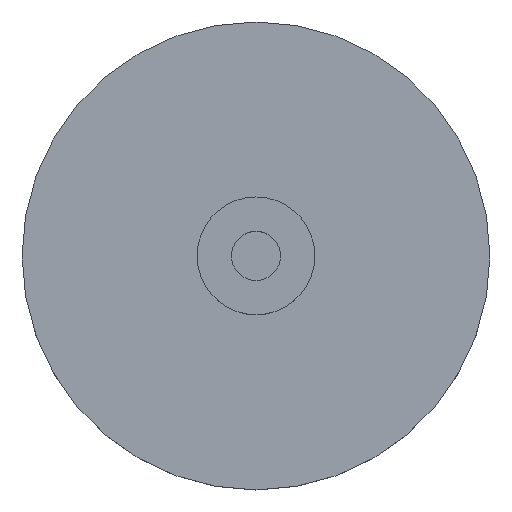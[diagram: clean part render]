
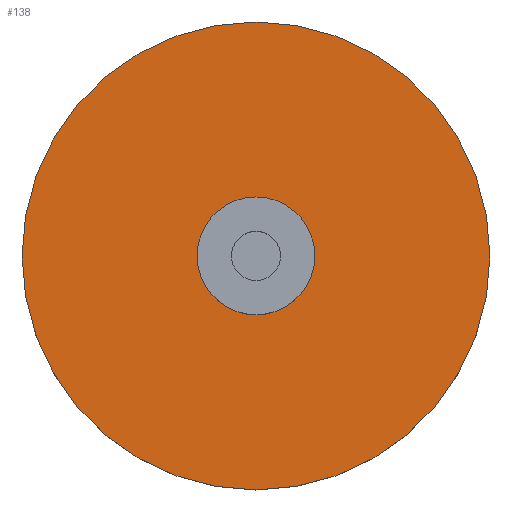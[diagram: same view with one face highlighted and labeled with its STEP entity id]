
A CAD part, top view. The second image highlights one B-rep face of the part: STEP entity #138.
In plain terms, the highlighted planar face has unit normal (0, 0, 1).
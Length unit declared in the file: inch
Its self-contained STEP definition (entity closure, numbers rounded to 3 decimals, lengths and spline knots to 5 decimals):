
#111=CARTESIAN_POINT('',(67.89299,41.42512,3.48075));
#112=DIRECTION('',(0.0,0.0,1.0));
#113=DIRECTION('',(1.0,0.0,0.0));
#114=AXIS2_PLACEMENT_3D('',#111,#112,#113);
#115=PLANE('',#114);
#116=CARTESIAN_POINT('',(69.38299,41.42512,3.48075));
#117=VERTEX_POINT('',#116);
#118=CARTESIAN_POINT('',(67.89299,41.42512,3.48075));
#119=DIRECTION('',(0.0,0.0,1.0));
#120=DIRECTION('',(1.0,0.0,0.0));
#121=AXIS2_PLACEMENT_3D('',#118,#119,#120);
#122=CIRCLE('',#121,1.49);
#123=EDGE_CURVE('',#117,#117,#122,.T.);
#124=ORIENTED_EDGE('',*,*,#123,.T.);
#125=EDGE_LOOP('',(#124));
#126=FACE_OUTER_BOUND('',#125,.T.);
#127=CARTESIAN_POINT('',(68.26799,41.42512,3.48075));
#128=VERTEX_POINT('',#127);
#129=CARTESIAN_POINT('',(67.89299,41.42512,3.48075));
#130=DIRECTION('',(0.0,0.0,-1.0));
#131=DIRECTION('',(1.0,0.0,0.0));
#132=AXIS2_PLACEMENT_3D('',#129,#130,#131);
#133=CIRCLE('',#132,0.375);
#134=EDGE_CURVE('',#128,#128,#133,.T.);
#135=ORIENTED_EDGE('',*,*,#134,.T.);
#136=EDGE_LOOP('',(#135));
#137=FACE_BOUND('',#136,.T.);
#138=ADVANCED_FACE('',(#126,#137),#115,.T.);
